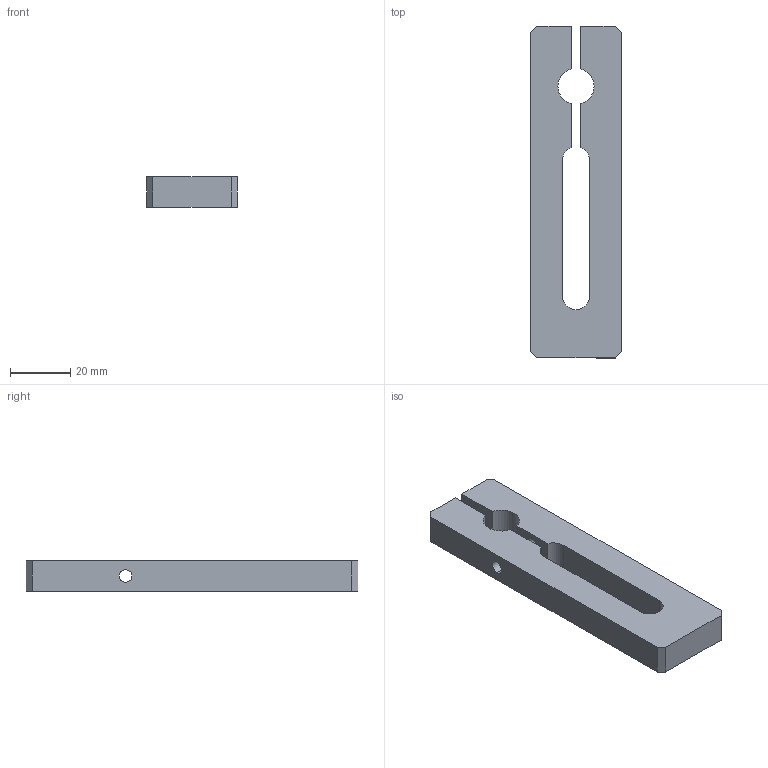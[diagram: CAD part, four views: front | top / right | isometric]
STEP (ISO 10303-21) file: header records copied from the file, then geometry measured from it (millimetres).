
FILE_DESCRIPTION (( 'STEP AP203' ), '1' );
FILE_NAME ('084.711.001.STEP', '2013-01-31T14:29:11', ( 'Alusic' ), ( 'Alusic' ), 'SwSTEP 2.0', 'SolidWorks 2011', '' );
FILE_SCHEMA (( 'CONFIG_CONTROL_DESIGN' ));
Length unit declared in the file: millimetre
Products named in the file (1): 084.711.001
Bounding box: 30 x 110 x 10 mm (x, y, z)
Volume: 25687.8 mm3; surface area: 10364.1 mm2
Topology: 1 solids, 1 shells, 27 faces, 75 edges, 50 vertices
Faces by surface type: plane 17, cylinder 10
Entity records: 954 total; most frequent: CARTESIAN_POINT 153, DIRECTION 151, ORIENTED_EDGE 150, EDGE_CURVE 75, VECTOR 55, LINE 55, VERTEX_POINT 50, AXIS2_PLACEMENT_3D 48
